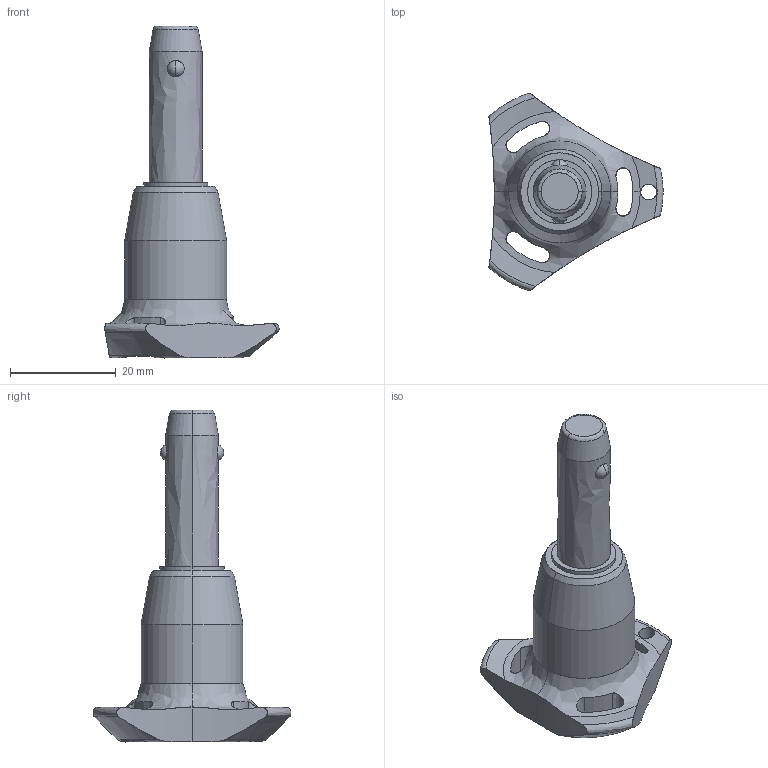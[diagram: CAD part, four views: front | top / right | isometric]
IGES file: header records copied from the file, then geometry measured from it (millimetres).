
Start section: SolidWorks IGES file using analytic representation for surfaces
Global section: file name: C:\Users\ianosborn\Desktop\QR1724_v2\QR1724_v2_20251112_IGES\QR1724.M10-020-S.igs; native system: SolidWorks 2019; preprocessor: SolidWorks 2019; author: IanOsborn; date: 251112.125216; units: millimetre
Bounding box: 33 x 37.51 x 62.9 mm (x, y, z)
Surface area: 4792.7 mm2 (no closed solid volume)
Topology: 0 solids, 0 shells, 65 faces, 1282 edges, 1278 vertices
Faces by surface type: revolution 50, bspline 15
